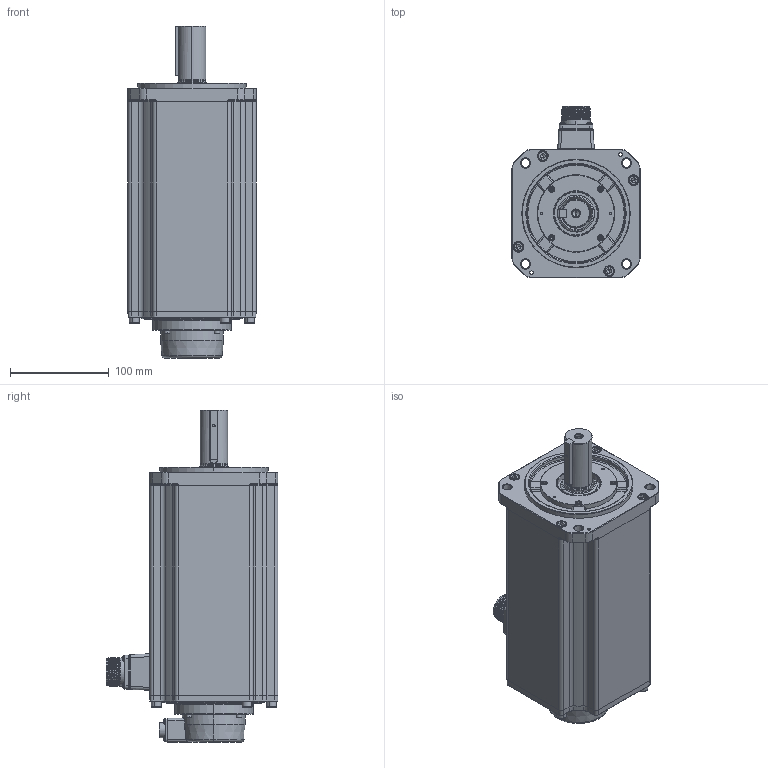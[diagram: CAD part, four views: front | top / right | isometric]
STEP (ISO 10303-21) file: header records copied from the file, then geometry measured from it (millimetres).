
FILE_DESCRIPTION (( 'STEP AP214' ), '1' );
FILE_NAME ('RSA1-S-130-5kw.STEP', '2024-08-12T02:20:29', ( '' ), ( '' ), 'SwSTEP 2.0', 'SolidWorks 2020', '' );
FILE_SCHEMA (( 'AUTOMOTIVE_DESIGN' ));
Length unit declared in the file: millimetre
Products named in the file (17): 雄薯瑤脣; 坋趼羞攫芛蹟隊_M3x30; 4140000005_电机内部编码器线_7x26AWG(0.1m-CMV1-10芯螺纹插座_GACJ3045); 内六角圆柱头螺钉_M6x20; す瑩_B8x7x50; 130-苤嫦講粣創裔啣; 内六角圆柱头和平垫圈组合螺钉_M3x16; 130雄薯瑤脣價釱; 130-蚐猾_TC30x45x8(NBR); 130梓袧綴裔; 130-梓袧綴傷裔; 内六角圆柱头螺钉_M3x10; RSA1-S-130-5kw; ﾊｮﾗﾖｲﾛﾅﾌﾍｷﾗﾔｼｷﾂﾝｶ､_M3x8; 130-S-5kw儂褲; 130-S-ヶ傷裔; 130-苤嫦講-粣噤28
Assembly tree (35 placements, depth 2):
  RSA1-S-130-5kw
    130-S-5kw儂褲
    130雄薯瑤脣價釱
    130-S-ヶ傷裔
    130-苤嫦講-粣噤28
    雄薯瑤脣
    130-苤嫦講粣創裔啣
    130-蚐猾_TC30x45x8(NBR)
    130-梓袧綴傷裔
    130梓袧綴裔
    4140000005_电机内部编码器线_7x26AWG(0.1m-CMV1-10芯螺纹插座_GACJ3045)
    内六角圆柱头螺钉_M6x20  x8
    内六角圆柱头和平垫圈组合螺钉_M3x16  x4
    内六角圆柱头螺钉_M3x10  x4
    坋趼羞攫芛蹟隊_M3x30  x4
    ﾊｮﾗﾖｲﾛﾅﾌﾍｷﾗﾔｼｷﾂﾝｶ､_M3x8  x4
    す瑩_B8x7x50
Bounding box: 130 x 174.4 x 336.9 mm (x, y, z)
Volume: 3549831.1 mm3; surface area: 313152.5 mm2
Topology: 46 solids, 46 shells, 2883 faces, 7139 edges, 4441 vertices
Faces by surface type: plane 1411, cylinder 748, cone 364, torus 197, bspline 115, sphere 48
Entity records: 97846 total; most frequent: CARTESIAN_POINT 24644, DIRECTION 12027, ORIENTED_EDGE 11850, EDGE_CURVE 5925, AXIS2_PLACEMENT_3D 4242, VERTEX_POINT 3738, LINE 3543, VECTOR 3543
